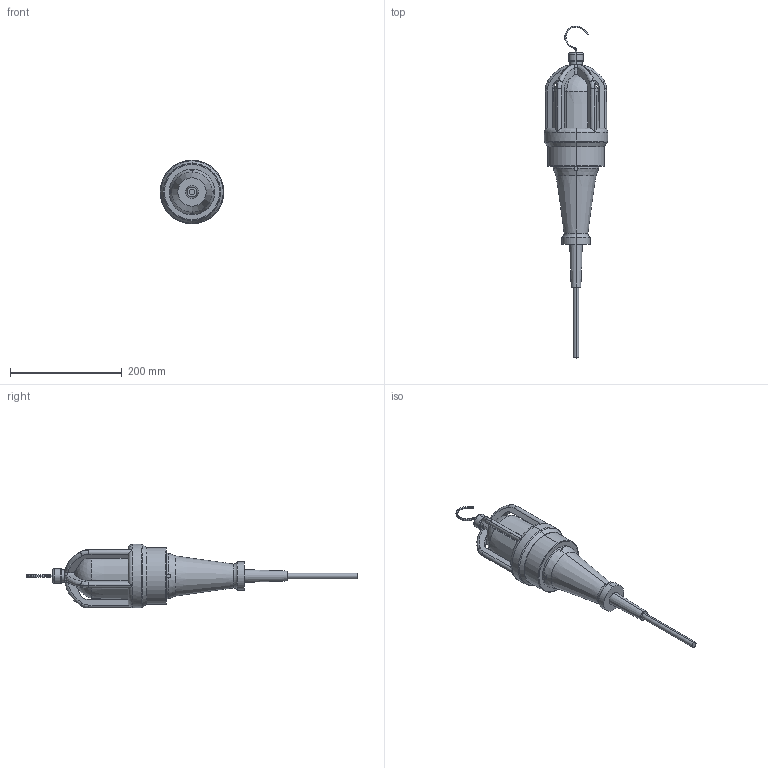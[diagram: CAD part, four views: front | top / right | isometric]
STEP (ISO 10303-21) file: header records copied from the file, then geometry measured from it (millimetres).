
FILE_DESCRIPTION (( 'STEP AP214' ), '1' );
FILE_NAME ('Haz Hand Light.STEP', '2010-09-18T02:55:01', ( 'Owner' ), ( 'HOME' ), 'SwSTEP 2.0', 'SolidWorks 2008', '' );
FILE_SCHEMA (( 'AUTOMOTIVE_DESIGN' ));
Length unit declared in the file: inch
Products named in the file (5): Haz Hand Lanp; Haz Hand Light; Hook; Lens; Bulb
Assembly tree (4 placements, depth 2):
  Haz Hand Light
    Lens
    Hook
    Haz Hand Lanp
    Bulb
Bounding box: 114.3 x 594.32 x 114.3 mm (x, y, z)
Volume: 1182273.8 mm3; surface area: 182391.8 mm2
Topology: 4 solids, 4 shells, 216 faces, 567 edges, 355 vertices
Faces by surface type: plane 75, cylinder 51, torus 46, cone 18, bspline 15, sphere 11
Entity records: 8254 total; most frequent: CARTESIAN_POINT 2695, ORIENTED_EDGE 1124, DIRECTION 1105, EDGE_CURVE 562, AXIS2_PLACEMENT_3D 458, VERTEX_POINT 352, CIRCLE 250, EDGE_LOOP 222
